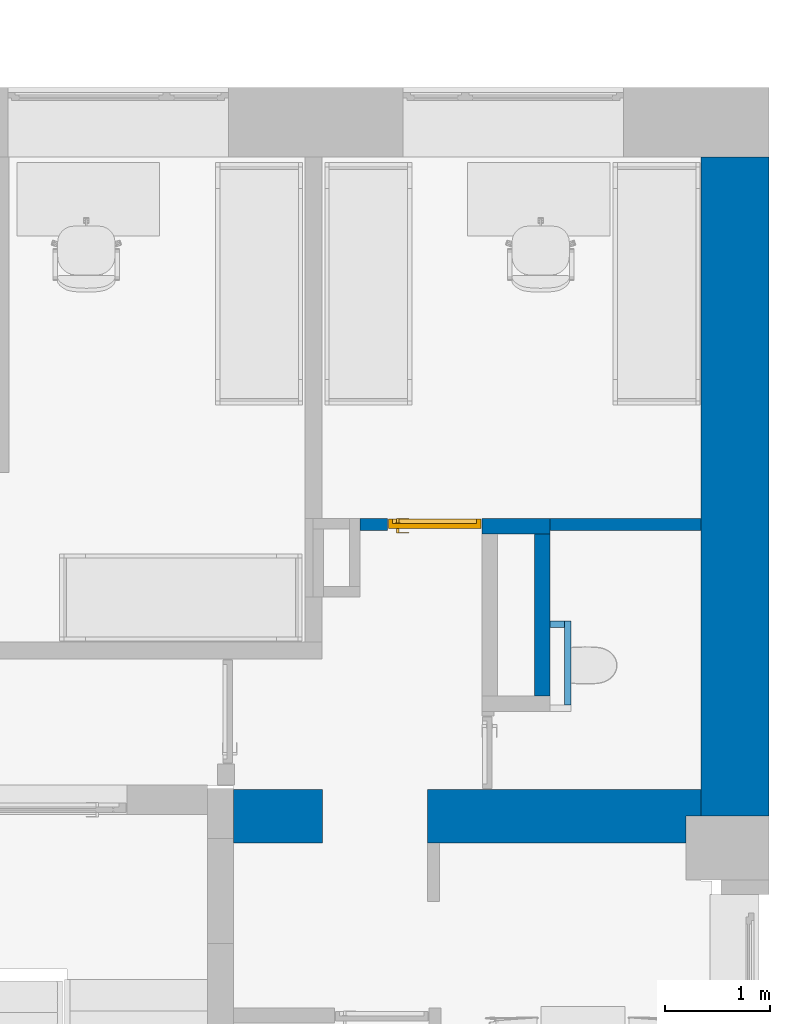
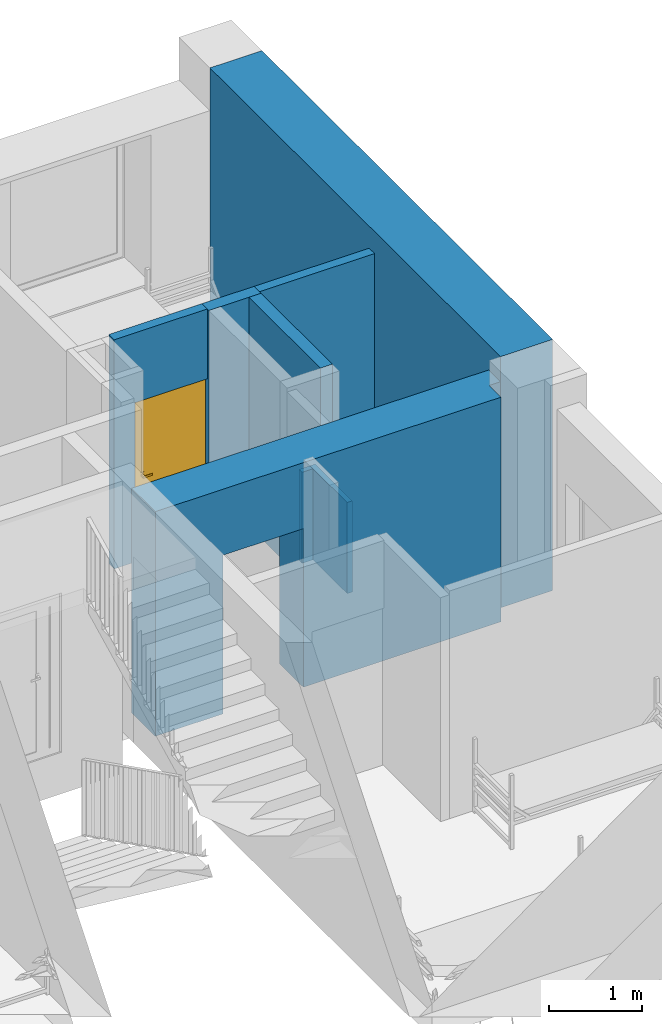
# One storey, part 14 of 48: 8 walls, 1 door, 3 openings.
"""IFC2X3 building model written with IfcOpenShell, lengths in millimetres."""

from ifc_helpers import new_model, entity, si_unit, converted_unit, derived_unit, direction, frame, frame_2d, origin, place, context, subcontext, project, spatial, rectangle, extrude, faceted_brep, source, transform, mapped, material, material_list, layer, layer_set, layer_usage, type_object, type_shapes, element, fill, save


model = new_model("IFC2X3")

# Units and contexts
model_context = context("Model", 3, precision=0.01, world=origin(), true_north=direction((6.12303176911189e-17, 1.0)))
body_context = subcontext(model_context, "Body", "Model", "MODEL_VIEW")
ifc_project = project(units=[si_unit("LENGTHUNIT", "METRE", prefix="MILLI"), si_unit("AREAUNIT", "SQUARE_METRE"), si_unit("VOLUMEUNIT", "CUBIC_METRE"), converted_unit("PLANEANGLEUNIT", "DEGREE", entity("IfcRatioMeasure", 0.0174532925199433), si_unit("PLANEANGLEUNIT", "RADIAN"), dimensions=[0, 0, 0, 0, 0, 0, 0]), si_unit("MASSUNIT", "GRAM", prefix="KILO"), derived_unit("MASSDENSITYUNIT", [(si_unit("MASSUNIT", "GRAM", prefix="KILO"), 1), (si_unit("LENGTHUNIT", "METRE"), -3)]), si_unit("TIMEUNIT", "SECOND"), si_unit("FREQUENCYUNIT", "HERTZ"), si_unit("THERMODYNAMICTEMPERATUREUNIT", "DEGREE_CELSIUS"), derived_unit("THERMALTRANSMITTANCEUNIT", [(si_unit("MASSUNIT", "GRAM", prefix="KILO"), 1), (si_unit("THERMODYNAMICTEMPERATUREUNIT", "KELVIN"), -1), (si_unit("TIMEUNIT", "SECOND"), -3)]), derived_unit("VOLUMETRICFLOWRATEUNIT", [(si_unit("LENGTHUNIT", "METRE"), 3), (si_unit("TIMEUNIT", "SECOND"), -1)]), si_unit("ELECTRICCURRENTUNIT", "AMPERE"), si_unit("ELECTRICVOLTAGEUNIT", "VOLT"), si_unit("POWERUNIT", "WATT"), si_unit("FORCEUNIT", "NEWTON", prefix="KILO"), si_unit("ILLUMINANCEUNIT", "LUX"), si_unit("LUMINOUSFLUXUNIT", "LUMEN"), si_unit("LUMINOUSINTENSITYUNIT", "CANDELA"), derived_unit("USERDEFINED", [(si_unit("MASSUNIT", "GRAM", prefix="KILO"), -1), (si_unit("LENGTHUNIT", "METRE"), -2), (si_unit("TIMEUNIT", "SECOND"), 3), (si_unit("LUMINOUSFLUXUNIT", "LUMEN"), 1)]), derived_unit("LINEARVELOCITYUNIT", [(si_unit("LENGTHUNIT", "METRE"), 1), (si_unit("TIMEUNIT", "SECOND"), -1)]), si_unit("PRESSUREUNIT", "PASCAL"), derived_unit("USERDEFINED", [(si_unit("LENGTHUNIT", "METRE"), -2), (si_unit("MASSUNIT", "GRAM", prefix="KILO"), 1), (si_unit("TIMEUNIT", "SECOND"), -2)]), derived_unit("LINEARFORCEUNIT", [(si_unit("MASSUNIT", "GRAM", prefix="KILO"), 1), (si_unit("LENGTHUNIT", "METRE"), 1), (si_unit("TIMEUNIT", "SECOND"), -2), (si_unit("LENGTHUNIT", "METRE"), -1)]), derived_unit("PLANARFORCEUNIT", [(si_unit("MASSUNIT", "GRAM", prefix="KILO"), 1), (si_unit("LENGTHUNIT", "METRE"), 1), (si_unit("TIMEUNIT", "SECOND"), -2), (si_unit("LENGTHUNIT", "METRE"), -2)])], contexts=[model_context])

# Site, building, storey
site_placement = place(None, origin())
site = spatial("IfcSite", under=ifc_project, at=site_placement, Name="Default", CompositionType="ELEMENT")
building_placement = place(site_placement, origin())
building = spatial("IfcBuilding", under=site, at=building_placement, Name="SMA ARH", CompositionType="ELEMENT")
storey_placement = place(building_placement, frame((0.0, 0.0, 6600.0)))
storey = spatial("IfcBuildingStorey", under=building, at=storey_placement, Name="3 Korrus", CompositionType="ELEMENT", Elevation=6599.99999999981)

# Wall, opening
ifc_material_1 = material(Name="_ol.olev sein")
ifc_layer_1 = layer(ifc_material_1, 650.0)
ifc_layer_set_1 = layer_set([ifc_layer_1], Name="Basic Wall:Generic - 650mm")
ifc_layer_usage_1 = layer_usage(ifc_layer_set_1, "AXIS2", "POSITIVE", -325.0)
wall_type_1 = type_object("IfcWallType", Name="Basic Wall:Generic - 650mm", PredefinedType="STANDARD", material=ifc_layer_set_1)
wall_1_placement = place(storey_placement, frame((38640.0, 6225.0, 0.0), z_axis=(0.0, 0.0, 1.0), x_axis=(0.0, 1.0, 0.0)))
wall_1 = element("IfcWallStandardCase", 1, at=wall_1_placement, inside=storey, type_object=wall_type_1, material=ifc_layer_usage_1, Name="Basic Wall:Generic - 650mm", ObjectType="Basic Wall:Generic - 650mm", context=body_context, shape_type="SweptSolid", body=[
    extrude(rectangle(XDim=6275.00000000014, YDim=650.0, at=frame_2d((3137.50000000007, -1.70530256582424e-13), x_axis=(-1.0, 0.0))), origin(), (0.0, 0.0, 1.0), 3309.99999999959),
])
opening_1_placement = place(wall_1_placement, origin())
element("IfcOpeningElement", 2, at=opening_1_placement, cuts=wall_1, Name="Basic Wall:Generic - 650mm", ObjectType="Opening", context=body_context, shape_type="SweptSolid", body=[
    extrude(rectangle(XDim=1300.0, YDim=2130.0, at=frame_2d((-2.27373675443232e-13, 0.0), x_axis=(0.0, 1.0))), frame((-1990.0, -1473.90099913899, 1450.0), z_axis=(0.0, 1.0, 0.0), x_axis=(-1.0, 0.0, 0.0)), (0.0, 0.0, 1.0), 3048.0),
])

ifc_material_2 = material(Name="EST. Müüritis. Väikeplokk. Kergkruusplokk")
ifc_layer_2 = layer(ifc_material_2, 150.0)
ifc_layer_set_2 = layer_set([ifc_layer_2], Name="Basic Wall:SS-02_ 150mm šahtide vahesein")
ifc_layer_usage_2 = layer_usage(ifc_layer_set_2, "AXIS2", "POSITIVE", -75.0)
wall_type_2 = type_object("IfcWallType", Name="Basic Wall:SS-02_ 150mm šahtide vahesein", PredefinedType="STANDARD", material=ifc_layer_set_2)
wall_2_placement = place(storey_placement, frame((36230.0, 8984.5014052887, 0.0)))
wall_2 = element("IfcWallStandardCase", 3, at=wall_2_placement, inside=storey, type_object=wall_type_2, material=ifc_layer_usage_2, Name="Basic Wall:SS-02_ 150mm šahtide vahesein", ObjectType="Basic Wall:SS-02_ 150mm šahtide vahesein", context=body_context, shape_type="SweptSolid", body=[
    extrude(rectangle(XDim=649.999999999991, YDim=150.000000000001, at=frame_2d((324.999999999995, 4.68958205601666e-13), x_axis=(-1.0, 0.0))), origin(), (0.0, 0.0, 1.0), 3019.99999999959),
])
opening_2_placement = place(wall_2_placement, origin())
element("IfcOpeningElement", 4, at=opening_2_placement, cuts=wall_2, Name="Basic Wall:SS-02_ 150mm šahtide vahesein", ObjectType="Opening", context=body_context, shape_type="SweptSolid", body=[
    extrude(rectangle(XDim=2099.99999999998, YDim=899.999999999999, at=frame_2d((-2.1600499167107e-12, -5.6843418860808e-13), x_axis=(0.0, 1.0))), frame((-450.0, -1449.0, 1050.0), z_axis=(0.0, 1.0, 0.0), x_axis=(-1.0, 0.0, 0.0)), (0.0, 0.0, 1.0), 3048.0),
])

# Walls
ifc_layer_usage_3 = layer_usage(ifc_layer_set_2, "AXIS2", "POSITIVE", -75.0)
wall_3_placement = place(storey_placement, frame((36805.0, 8909.50140528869, 0.0), z_axis=(0.0, 0.0, 1.0), x_axis=(0.0, -1.0, 0.0)))
element("IfcWallStandardCase", 5, at=wall_3_placement, inside=storey, type_object=wall_type_2, material=ifc_layer_usage_3, Name="Basic Wall:SS-02_ 150mm šahtide vahesein", ObjectType="Basic Wall:SS-02_ 150mm šahtide vahesein", context=body_context, shape_type="SweptSolid", body=[
    extrude(rectangle(XDim=1539.50139590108, YDim=150.000000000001, at=frame_2d((769.75069795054, 0.0), x_axis=(-1.0, 0.0))), origin(), (0.0, 0.0, 1.0), 3019.99999999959),
])
ifc_layer_3 = layer(ifc_material_1, 510.0)
ifc_layer_set_3 = layer_set([ifc_layer_3], Name="Basic Wall:Generic - 510mm")
wall_type_3 = type_object("IfcWallType", Name="Basic Wall:Generic - 510mm", PredefinedType="STANDARD", material=ifc_layer_set_3)
wall_4_placement = place(storey_placement, frame((38315.0, 6225.0, 20.0), z_axis=(0.0, 0.0, 1.0), x_axis=(-1.0, 0.0, 0.0)))
element("IfcWall", 6, at=wall_4_placement, inside=storey, type_object=wall_type_3, Name="Basic Wall:Generic - 510mm", ObjectType="Basic Wall:Generic - 510mm", context=body_context, shape_type="Brep", body=[
    faceted_brep([(2605.0, -255.0, 2090.0), (3605.0, -255.0, 2090.0), (3605.0, -255.0, 0.0), (4450.0, -255.0, 0.0), (4450.0, -255.0, 2960.0), (0.0, -255.0, 2960.0), (0.0, -255.0, 0.0), (2605.0, -255.0, 0.0), (3605.0, 255.0, 2090.0), (2605.0, 255.0, 2090.0), (2605.0, 255.0, 0.0), (140.0, 255.0, 0.0), (140.0, 255.0, 2960.0), (4450.0, 255.0, 2960.0), (4450.0, 255.0, 0.0), (3605.0, 255.0, 0.0), (0.0, 0.0, 0.0), (0.0, 0.0, 2960.0), (140.0, 0.0, 0.0), (140.0, 0.0, 2960.0)], [[[0, 1, 2, 3, 4, 5, 6, 7]], [[8, 9, 10, 11, 12, 13, 14, 15]], [[16, 6, 5, 17]], [[18, 16, 17, 19]], [[11, 18, 19, 12]], [[8, 1, 0, 9]], [[1, 8, 15, 2]], [[9, 0, 7, 10]], [[3, 2, 15, 14]], [[3, 14, 13, 4]], [[5, 4, 13, 12, 19, 17]], [[7, 6, 16, 18, 11, 10]]]),
])
ifc_material_3 = material(Name="EST. Ehitusplaat. Kipsplaat")
ifc_layer_4 = layer(ifc_material_3, 12.5)
ifc_layer_5 = layer(ifc_material_3, 12.5)
ifc_material_4 = material(Name="EST. Soojustus. Mineraalvill. Default")
ifc_layer_6 = layer(ifc_material_4, 66.0)
ifc_layer_7 = layer(ifc_material_3, 12.5)
ifc_layer_8 = layer(ifc_material_3, 12.5)
ifc_layer_set_4 = layer_set([ifc_layer_4, ifc_layer_5, ifc_layer_6, ifc_layer_7, ifc_layer_8], Name="Basic Wall:SS-05_Kips, 66mm metallkarkass")
ifc_layer_usage_4 = layer_usage(ifc_layer_set_4, "AXIS2", "NEGATIVE", 58.0)
wall_type_4 = type_object("IfcWallType", Name="Basic Wall:SS-05_Kips, 66mm metallkarkass", PredefinedType="STANDARD", material=ifc_layer_set_4)
wall_5_placement = place(storey_placement, frame((36880.0, 9001.5014052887, 0.0)))
element("IfcWallStandardCase", 7, at=wall_5_placement, inside=storey, type_object=wall_type_4, material=ifc_layer_usage_4, Name="Basic Wall:SS-05_Kips, 66mm metallkarkass", ObjectType="Basic Wall:SS-05_Kips, 66mm metallkarkass", context=body_context, shape_type="SweptSolid", body=[
    extrude(rectangle(XDim=1435.00001631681, YDim=116.0, at=frame_2d((717.500008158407, -7.105427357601e-15), x_axis=(-1.0, 0.0))), origin(), (0.0, 0.0, 1.0), 3019.99999999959),
])

# Wall, opening, door
ifc_layer_usage_5 = layer_usage(ifc_layer_set_4, "AXIS2", "NEGATIVE", 58.0)
wall_6_placement = place(storey_placement, frame((36230.0, 9001.5014052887, 0.0), z_axis=(0.0, 0.0, 1.0), x_axis=(-1.0, 0.0, 0.0)))
wall_6 = element("IfcWallStandardCase", 8, at=wall_6_placement, inside=storey, type_object=wall_type_4, material=ifc_layer_usage_5, Name="Basic Wall:SS-05_Kips, 66mm metallkarkass", ObjectType="Basic Wall:SS-05_Kips, 66mm metallkarkass", context=body_context, shape_type="SweptSolid", body=[
    extrude(rectangle(XDim=1160.7499836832, YDim=116.0, at=frame_2d((580.374991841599, 2.70006239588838e-13), x_axis=(-1.0, 0.0))), origin(), (0.0, 0.0, 1.0), 3019.99999999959),
])
opening_3_placement = place(wall_6_placement, frame((1.63164025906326e-05, -58.0, 0.0)))
opening_3 = element("IfcOpeningElement", 9, at=opening_3_placement, cuts=wall_6, Name="SMA_D01, 1-poolne:SU-P-05 - 900x2100 TUBA:1", ObjectType="Opening", context=body_context, shape_type="SweptSolid", body=[
    extrude(rectangle(XDim=2099.99999999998, YDim=900.0, at=frame_2d((1049.99999999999, 450.0), x_axis=(1.0, 0.0))), frame((0.0, 0.0, 0.0), z_axis=(0.0, 1.0, 0.0), x_axis=(0.0, 0.0, 1.0)), (0.0, 0.0, 1.0), 116.0),
])
ifc_material_5 = material(Name="EST. Metall. Alumiinium. Värvitud. RAL7023 (Concrete grey)")
ifc_material_6 = material(Name="<Unnamed>")
ifc_material_7 = material(Name="EST. Klaas. 3x. Default")
ifc_material_list = material_list([ifc_material_5, ifc_material_6, ifc_material_5, ifc_material_6, ifc_material_6, ifc_material_7, ifc_material_5])
door_style = type_object("IfcDoorStyle", Name="SMA_D01, 1-poolne:SU-P-05 - 900x2100 TUBA", ConstructionType="NOTDEFINED", OperationType="SINGLE_SWING_LEFT", ParameterTakesPrecedence=False, Sizeable=False, material=ifc_material_list)
shared_shape = source(origin(), body_context, "Body", "Brep", [
    faceted_brep([(790.0, 6.0, 1112.5), (695.0, 6.0, 1112.5), (695.0, 1.0, 1112.5), (815.0, 1.0, 1112.5), (815.0, 44.0, 1112.5), (790.0, 44.0, 1112.5), (790.0, 6.0, 1087.5), (790.0, 44.0, 1087.5), (815.0, 44.0, 1087.5), (815.0, 1.0, 1087.5), (695.0, 1.0, 1087.5), (695.0, 6.0, 1087.5)], [[[0, 1, 2, 3, 4, 5]], [[6, 7, 8, 9, 10, 11]], [[5, 7, 6, 0]], [[4, 8, 7, 5]], [[3, 9, 8, 4]], [[2, 10, 9, 3]], [[1, 11, 10, 2]], [[0, 6, 11, 1]]]),
    faceted_brep([(777.500000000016, 44.0, 1137.5), (827.500000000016, 44.0, 1137.5), (827.500000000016, 46.0, 1137.5), (777.500000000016, 46.0, 1137.5), (777.500000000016, 44.0, 1017.5), (777.500000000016, 46.0, 1017.5), (827.500000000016, 46.0, 1017.5), (827.500000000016, 44.0, 1017.5)], [[[0, 1, 2, 3]], [[4, 5, 6, 7]], [[3, 5, 4, 0]], [[2, 6, 5, 3]], [[1, 7, 6, 2]], [[0, 4, 7, 1]]]),
    faceted_brep([(790.0, 136.0, 1112.5), (790.0, 98.0, 1112.5), (815.0, 98.0, 1112.5), (815.0, 141.0, 1112.5), (695.0, 141.0, 1112.5), (695.0, 136.0, 1112.5), (790.0, 136.0, 1087.5), (695.0, 136.0, 1087.5), (695.0, 141.0, 1087.5), (815.0, 141.0, 1087.5), (815.0, 98.0, 1087.5), (790.0, 98.0, 1087.5)], [[[0, 1, 2, 3, 4, 5]], [[6, 7, 8, 9, 10, 11]], [[1, 0, 6, 11]], [[2, 1, 11, 10]], [[3, 2, 10, 9]], [[4, 3, 9, 8]], [[5, 4, 8, 7]], [[0, 5, 7, 6]]]),
    faceted_brep([(777.500000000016, 98.0, 1137.5), (777.500000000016, 96.0, 1137.5), (827.500000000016, 96.0, 1137.5), (827.500000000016, 98.0, 1137.5), (777.500000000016, 98.0, 1017.5), (827.500000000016, 98.0, 1017.5), (827.500000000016, 96.0, 1017.5), (777.500000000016, 96.0, 1017.5)], [[[0, 1, 2, 3]], [[4, 5, 6, 7]], [[1, 0, 4, 7]], [[2, 1, 7, 6]], [[3, 2, 6, 5]], [[0, 3, 5, 4]]]),
    faceted_brep([(50.0, 6.0, 30.0), (50.0, 46.0, 30.0), (50.0, 46.0, 20.0), (50.0, 46.0, 0.0), (50.0, 6.0, 0.0), (850.0, 6.0, 30.0), (850.0, 6.0, 0.0), (850.0, 46.0, 0.0), (850.0, 46.0, 20.0), (850.0, 46.0, 30.0), (35.0, 46.0, 0.0), (35.0, 96.0, 0.0), (865.0, 96.0, 0.0), (865.0, 46.0, 0.0), (35.0, 96.0, 20.0), (35.0, 46.0, 20.0), (865.0, 96.0, 20.0), (865.0, 46.0, 20.0)], [[[0, 1, 2, 3, 4]], [[5, 6, 7, 8, 9]], [[4, 6, 5, 0]], [[3, 10, 11, 12, 13, 7, 6, 4]], [[9, 8, 2, 1]], [[0, 5, 9, 1]], [[14, 11, 10, 15]], [[16, 17, 13, 12]], [[15, 2, 8, 17, 16, 14]], [[10, 3, 2, 15]], [[14, 16, 12, 11]], [[17, 8, 7, 13]]]),
    faceted_brep([(10.0, 6.0, 0.0), (10.0, 96.0, 0.0), (35.0, 96.0, 0.0), (35.0, 46.0, 0.0), (50.0, 46.0, 0.0), (50.0, 6.0, 0.0), (50.0, 6.0, 2050.0), (850.0, 6.0, 2050.0), (850.0, 6.0, 0.0), (890.0, 6.0, 0.0), (890.0, 6.0, 2090.0), (10.0, 6.0, 2090.0), (50.0, 46.0, 2050.0), (35.0, 46.0, 2065.0), (865.0, 46.0, 2065.0), (865.0, 46.0, 0.0), (850.0, 46.0, 0.0), (850.0, 46.0, 2050.0), (35.0, 96.0, 2065.0), (10.0, 96.0, 2090.0), (890.0, 96.0, 2090.0), (890.0, 96.0, 0.0), (865.0, 96.0, 0.0), (865.0, 96.0, 2065.0)], [[[0, 1, 2, 3, 4, 5]], [[5, 6, 7, 8, 9, 10, 11, 0]], [[4, 12, 6, 5]], [[3, 13, 14, 15, 16, 17, 12, 4]], [[2, 18, 13, 3]], [[1, 19, 20, 21, 22, 23, 18, 2]], [[0, 11, 19, 1]], [[9, 21, 20, 10]], [[8, 16, 15, 22, 21, 9]], [[7, 17, 16, 8]], [[14, 23, 22, 15]], [[6, 12, 17, 7]], [[13, 18, 23, 14]], [[10, 20, 19, 11]]]),
    faceted_brep([(865.0, 46.0, 2065.0), (35.0, 46.0, 2065.0), (35.0, 46.0, 20.0), (865.0, 46.0, 20.0), (865.0, 96.0, 2065.0), (865.0, 96.0, 20.0), (35.0, 96.0, 20.0), (35.0, 96.0, 2065.0)], [[[0, 1, 2, 3]], [[4, 5, 6, 7]], [[3, 5, 4, 0]], [[2, 6, 5, 3]], [[1, 7, 6, 2]], [[0, 4, 7, 1]]]),
])
type_shapes(door_style, [shared_shape])
door_placement = place(opening_3_placement, frame((-1.63164004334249e-05, 0.0, 0.0)))
door = element("IfcDoor", 10, at=door_placement, inside=storey, type_object=door_style, material=ifc_material_5, Name="SMA_D01, 1-poolne:SU-P-05 - 900x2100 TUBA", ObjectType="SMA_D01, 1-poolne:SU-P-05 - 900x2100 TUBA", OverallHeight=2099.99999999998, OverallWidth=899.999999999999, context=body_context, shape_type="MappedRepresentation", body=[
    mapped(shared_shape, transform((0.0, 0.0, 0.0), scale=1.0)),
])
fill(opening_3, door)

# Walls
ifc_material_8 = material(Name="EST. Põrand. Plaatkate")
ifc_layer_9 = layer(ifc_material_8, 10.0)
ifc_layer_10 = layer(ifc_material_3, 12.5)
ifc_material_9 = material(Name="EST. Õhkvahe. Roov. Kipsplaadi alusroov. Vertikaalne")
ifc_layer_11 = layer(ifc_material_9, 42.0)
ifc_layer_set_5 = layer_set([ifc_layer_9, ifc_layer_10, ifc_layer_11], Name="Basic Wall:SS-04 - loputuskast")
ifc_layer_usage_6 = layer_usage(ifc_layer_set_5, "AXIS2", "POSITIVE", -32.25)
wall_type_5 = type_object("IfcWallType", Name="Basic Wall:SS-04 - loputuskast", PredefinedType="STANDARD", material=ifc_layer_set_5)
wall_7_placement = place(storey_placement, frame((37047.7499836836, 7284.50000938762, 0.0), z_axis=(0.0, 0.0, 1.0), x_axis=(0.0, 1.0, 0.0)))
element("IfcWallStandardCase", 11, at=wall_7_placement, inside=storey, type_object=wall_type_5, material=ifc_layer_usage_6, Name="Basic Wall:SS-04 - loputuskast", ObjectType="Basic Wall:SS-04 - loputuskast", context=body_context, shape_type="SweptSolid", body=[
    extrude(rectangle(XDim=800.0, YDim=64.5000000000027, at=frame_2d((400.0, 1.74793512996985e-12), x_axis=(-1.0, 0.0))), origin(), (0.0, 0.0, 1.0), 1200.0),
])
ifc_layer_usage_7 = layer_usage(ifc_layer_set_5, "AXIS2", "POSITIVE", -32.25)
wall_8_placement = place(storey_placement, frame((37015.4999836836, 8052.25000938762, 0.0), z_axis=(0.0, 0.0, 1.0), x_axis=(-1.0, 0.0, 0.0)))
element("IfcWallStandardCase", 12, at=wall_8_placement, inside=storey, type_object=wall_type_5, material=ifc_layer_usage_7, Name="Basic Wall:SS-04 - loputuskast", ObjectType="Basic Wall:SS-04 - loputuskast", context=body_context, shape_type="SweptSolid", body=[
    extrude(rectangle(XDim=135.499999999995, YDim=64.5000000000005, at=frame_2d((67.7499999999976, -1.03028696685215e-13), x_axis=(-1.0, 0.0))), origin(), (0.0, 0.0, 1.0), 1200.0),
])

save(model, "model.ifc")
